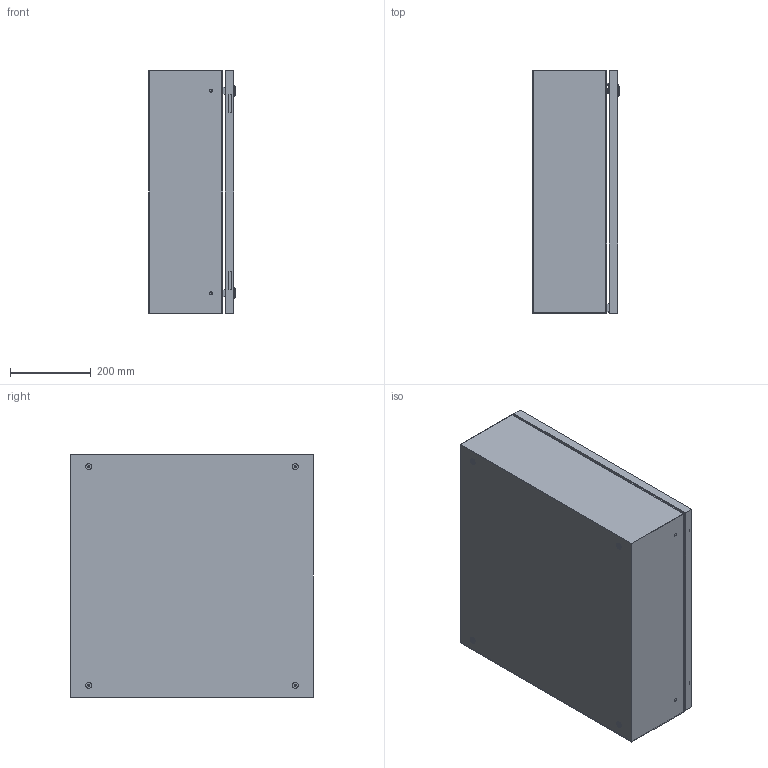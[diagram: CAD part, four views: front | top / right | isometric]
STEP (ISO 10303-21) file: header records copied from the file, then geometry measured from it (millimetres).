
FILE_DESCRIPTION(/* description */ ('Unknown'),/* implementation_level */ '2;1');
FILE_NAME(/* name */ 'CCA06006021',/* time_stamp */ '2024-07-31T09:56:31+02:00',/* author */ ('Unknown'),/* organization */ ('Unknown'),/* preprocessor_version */ 'ST-DEVELOPER v19.4',/* originating_system */ 'Solid Edge',/* authorisation */ 'Unknown');
FILE_SCHEMA (('AUTOMOTIVE_DESIGN {1 0 10303 214 3 1 1}'));
Length unit declared in the file: millimetre
Products named in the file (16): CCA06006021; C000X000.37_oa_0; C000X000.38_oa_1; C0000000.39; C0000000.02; AE00198.02; AE00989.09; AE00417.01; C000X002.00_oa_2; C0000001.82; C0000000.04; C0000000.05; AE00316.01; AE00601.01; AE00891.02; C0000000.01
Assembly tree (35 placements, depth 4):
  CCA06006021
    C000X000.37_oa_0
      C000X000.38_oa_1
        C0000000.39
      C0000000.02  x2
      AE00198.02  x2
      AE00989.09  x2
      AE00417.01  x2
    AE00198.02  x2
    C000X002.00_oa_2
      C0000001.82
      C0000000.04  x4
      C0000000.05  x4
      AE00316.01  x2
      AE00601.01  x2
      AE00891.02  x2
      C0000000.01  x2
      AE00417.01  x4
Bounding box: 215 x 600 x 600 mm (x, y, z)
Volume: 2184531.4 mm3; surface area: 2550015.6 mm2
Topology: 34 solids, 34 shells, 666 faces, 1620 edges, 1054 vertices
Faces by surface type: plane 434, cylinder 162, cone 36, torus 34
Full cylindrical faces by diameter (mm): 4 x2, 4.917 x6, 4.918 x2, 5.4 x2, 6 x14, 6.4 x2, 7.5 x6, 8 x4, 8.376 x8, 10 x6, 10.25 x4, 10.5 x4, 11 x2, 13.6 x2, 14 x4, 15 x4, 16 x4, 16.3 x2, 19.5 x2, 28 x2
Entity records: 11376 total; most frequent: CARTESIAN_POINT 1749, DIRECTION 1672, ORIENTED_EDGE 1540, EDGE_CURVE 770, AXIS2_PLACEMENT_3D 560, LINE 552, VECTOR 552, VERTEX_POINT 528
